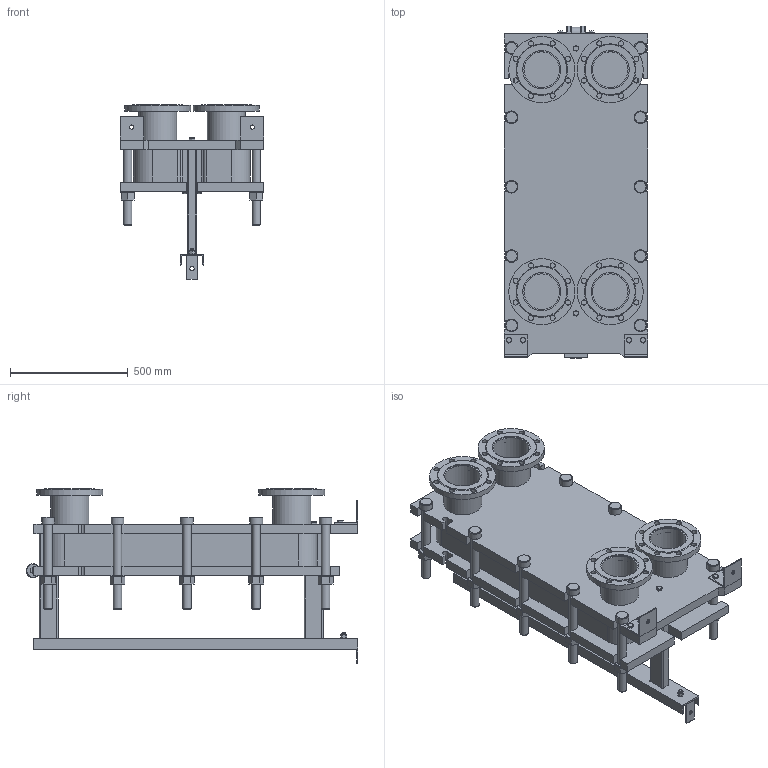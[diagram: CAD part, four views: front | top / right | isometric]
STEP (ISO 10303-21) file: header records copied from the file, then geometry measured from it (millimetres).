
FILE_DESCRIPTION(/* description */ (''),/* implementation_level */ '2;1');
FILE_NAME(/* name */ 'C:\Users\zhuro\Desktop\ENCO\TO\ЭН-041\ЭН-0,5-041-40-1.stp',/* time_stamp */ '2022-06-06T10:51:52+03:00',/* author */ ('zhuro'),/* organization */ (''),/* preprocessor_version */ 'ST-DEVELOPER v18.1',/* originating_system */ 'Autodesk Inventor 2022',/* authorisation */ '');
FILE_SCHEMA (('AUTOMOTIVE_DESIGN { 1 0 10303 214 3 1 1 }'));
Length unit declared in the file: millimetre
Products named in the file (1): ЭН-0,5-041-40-1
Bounding box: 610 x 1406.5 x 740 mm (x, y, z)
Volume: 153873142.9 mm3; surface area: 7701560.3 mm2
Topology: 52 solids, 52 shells, 711 faces, 1696 edges, 1094 vertices
Faces by surface type: plane 487, cylinder 177, cone 41, torus 6
Full cylindrical faces by diameter (mm): 8 x4, 10 x2, 16 x8, 18 x3, 22 x32, 36 x24, 50 x1, 54 x10, 60 x12, 151 x4, 161 x8, 280 x4
Entity records: 22667 total; most frequent: CARTESIAN_POINT 5230, DIRECTION 3644, ORIENTED_EDGE 3392, EDGE_CURVE 1696, AXIS2_PLACEMENT_3D 1272, LINE 1100, VECTOR 1100, VERTEX_POINT 1094
